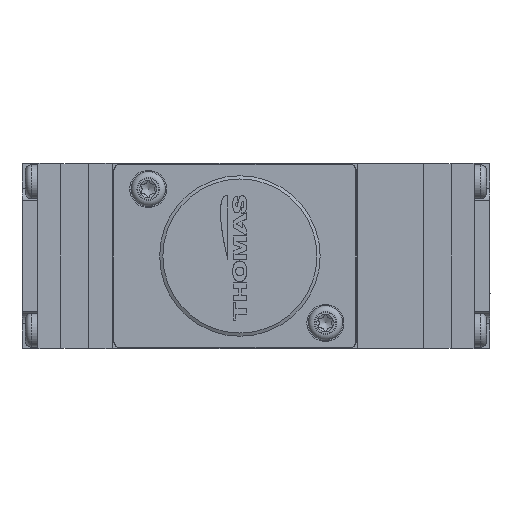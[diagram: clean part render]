
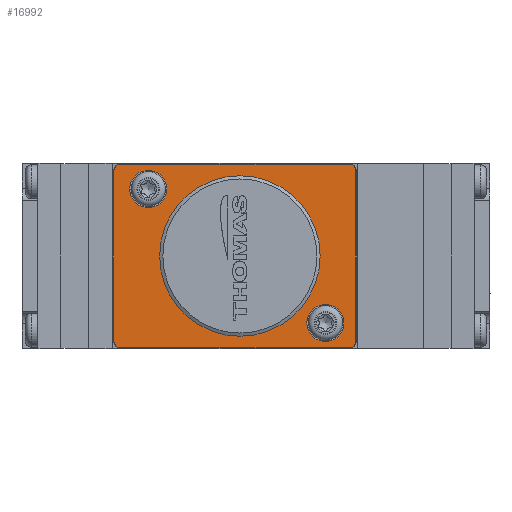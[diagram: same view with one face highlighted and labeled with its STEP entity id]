
A CAD part, left-side view. The second image highlights one B-rep face of the part: STEP entity #16992.
In plain terms, the highlighted planar face has unit normal (-1, 0, 0).
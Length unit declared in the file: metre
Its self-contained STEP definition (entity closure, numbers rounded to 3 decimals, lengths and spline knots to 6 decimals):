
#99 = EDGE_CURVE ( 'NONE', #601, #35715, #4696, .T. ) ;
#349 = DIRECTION ( 'NONE',  ( 0., 0., -1. ) ) ;
#601 = VERTEX_POINT ( 'NONE', #18446 ) ;
#1012 = CARTESIAN_POINT ( 'NONE',  ( -0.0301, -0.01525, -0.01385 ) ) ;
#1351 = EDGE_CURVE ( 'NONE', #10047, #22670, #16678, .T. ) ;
#2067 = DIRECTION ( 'NONE',  ( 0., 0., -1. ) ) ;
#2504 = DIRECTION ( 'NONE',  ( -1., 0., 0. ) ) ;
#2826 = EDGE_CURVE ( 'NONE', #32027, #32027, #13781, .T. ) ;
#3265 = CIRCLE ( 'NONE', #11943, 0.013 ) ;
#3659 = CARTESIAN_POINT ( 'NONE',  ( -0.0301, 0.01745, 0.01085 ) ) ;
#4004 = DIRECTION ( 'NONE',  ( 0., 0., -1. ) ) ;
#4154 = DIRECTION ( 'NONE',  ( -1., 0., 0. ) ) ;
#4454 = LINE ( 'NONE', #5794, #27164 ) ;
#4696 = CIRCLE ( 'NONE', #26306, 0.000953 ) ;
#5522 = EDGE_LOOP ( 'NONE', ( #18158 ) ) ;
#5552 = VERTEX_POINT ( 'NONE', #7711 ) ;
#5794 = CARTESIAN_POINT ( 'NONE',  ( -0.0301, 0.02305, -0.014803 ) ) ;
#5823 = ORIENTED_EDGE ( 'NONE', *, *, #26749, .T. ) ;
#6649 = DIRECTION ( 'NONE',  ( 0., 0., -1. ) ) ;
#6839 = CARTESIAN_POINT ( 'NONE',  ( -0.0301, -0.016203, -0.01385 ) ) ;
#7407 = DIRECTION ( 'NONE',  ( 0., 0., 1. ) ) ;
#7603 = DIRECTION ( 'NONE',  ( -1., 0., 0. ) ) ;
#7711 = CARTESIAN_POINT ( 'NONE',  ( -0.0301, 0.0026, -0.013 ) ) ;
#9274 = CARTESIAN_POINT ( 'NONE',  ( -0.0301, 0.02305, 0.014803 ) ) ;
#9396 = EDGE_CURVE ( 'NONE', #5552, #5552, #3265, .T. ) ;
#9734 = CARTESIAN_POINT ( 'NONE',  ( -0.0301, 0.02205, -0.014803 ) ) ;
#10047 = VERTEX_POINT ( 'NONE', #6839 ) ;
#10262 = CARTESIAN_POINT ( 'NONE',  ( -0.0301, -0.016203, 0.01385 ) ) ;
#10394 = ORIENTED_EDGE ( 'NONE', *, *, #36836, .T. ) ;
#11380 = VERTEX_POINT ( 'NONE', #26055 ) ;
#11692 = DIRECTION ( 'NONE',  ( 0., 0., -1. ) ) ;
#11934 = DIRECTION ( 'NONE',  ( -1., 0., 0. ) ) ;
#11943 = AXIS2_PLACEMENT_3D ( 'NONE', #29693, #11934, #32710 ) ;
#12233 = DIRECTION ( 'NONE',  ( 0., 1., 0. ) ) ;
#12323 = EDGE_CURVE ( 'NONE', #22670, #28420, #23766, .T. ) ;
#12655 = EDGE_CURVE ( 'NONE', #14340, #601, #19011, .T. ) ;
#12747 = DIRECTION ( 'NONE',  ( -1., 0., 0. ) ) ;
#13781 = CIRCLE ( 'NONE', #36841, 0.003 ) ;
#14288 = PLANE ( 'NONE',  #30278 ) ;
#14340 = VERTEX_POINT ( 'NONE', #28869 ) ;
#14639 = ORIENTED_EDGE ( 'NONE', *, *, #9396, .F. ) ;
#14940 = FACE_BOUND ( 'NONE', #5522, .T. ) ;
#15050 = CIRCLE ( 'NONE', #17475, 0.003 ) ;
#15380 = EDGE_LOOP ( 'NONE', ( #24345, #27228, #21763, #16568, #10394, #5823, #22677, #25146 ) ) ;
#16568 = ORIENTED_EDGE ( 'NONE', *, *, #12323, .T. ) ;
#16678 = LINE ( 'NONE', #28133, #32485 ) ;
#16992 = ADVANCED_FACE ( 'NONE', ( #30743, #29792, #14940, #21911 ), #14288, .T. ) ;
#17475 = AXIS2_PLACEMENT_3D ( 'NONE', #25335, #7603, #28322 ) ;
#18089 = DIRECTION ( 'NONE',  ( -1., 0., 0. ) ) ;
#18158 = ORIENTED_EDGE ( 'NONE', *, *, #2826, .F. ) ;
#18446 = CARTESIAN_POINT ( 'NONE',  ( -0.0301, 0.023003, -0.01385 ) ) ;
#18474 = CARTESIAN_POINT ( 'NONE',  ( -0.0301, -0.01525, 0.014803 ) ) ;
#19011 = LINE ( 'NONE', #38278, #32028 ) ;
#19373 = CARTESIAN_POINT ( 'NONE',  ( -0.0301, 0.01745, 0.00785 ) ) ;
#19830 = CARTESIAN_POINT ( 'NONE',  ( -0.0301, 0.02205, -0.01385 ) ) ;
#20357 = CARTESIAN_POINT ( 'NONE',  ( -0.0301, 0.02205, 0.014803 ) ) ;
#21745 = DIRECTION ( 'NONE',  ( -1., 0., 0. ) ) ;
#21763 = ORIENTED_EDGE ( 'NONE', *, *, #1351, .T. ) ;
#21911 = FACE_BOUND ( 'NONE', #24070, .T. ) ;
#22670 = VERTEX_POINT ( 'NONE', #10262 ) ;
#22677 = ORIENTED_EDGE ( 'NONE', *, *, #12655, .T. ) ;
#23244 = DIRECTION ( 'NONE',  ( 0., 0., -1. ) ) ;
#23532 = DIRECTION ( 'NONE',  ( 0., -1., 0. ) ) ;
#23766 = CIRCLE ( 'NONE', #25692, 0.000953 ) ;
#24070 = EDGE_LOOP ( 'NONE', ( #14639 ) ) ;
#24345 = ORIENTED_EDGE ( 'NONE', *, *, #24586, .T. ) ;
#24388 = DIRECTION ( 'NONE',  ( -1., 0., 0. ) ) ;
#24586 = EDGE_CURVE ( 'NONE', #35715, #11380, #4454, .T. ) ;
#25146 = ORIENTED_EDGE ( 'NONE', *, *, #99, .T. ) ;
#25335 = CARTESIAN_POINT ( 'NONE',  ( -0.0301, -0.01125, -0.01085 ) ) ;
#25692 = AXIS2_PLACEMENT_3D ( 'NONE', #30523, #12747, #33546 ) ;
#25894 = EDGE_CURVE ( 'NONE', #11380, #10047, #26230, .T. ) ;
#26055 = CARTESIAN_POINT ( 'NONE',  ( -0.0301, -0.01525, -0.014803 ) ) ;
#26230 = CIRCLE ( 'NONE', #29104, 0.000953 ) ;
#26306 = AXIS2_PLACEMENT_3D ( 'NONE', #19830, #4154, #2067 ) ;
#26335 = CARTESIAN_POINT ( 'NONE',  ( -0.0301, -0.01125, -0.01385 ) ) ;
#26749 = EDGE_CURVE ( 'NONE', #33892, #14340, #36868, .T. ) ;
#26892 = AXIS2_PLACEMENT_3D ( 'NONE', #35891, #18089, #349 ) ;
#27164 = VECTOR ( 'NONE', #23532, 1. ) ;
#27228 = ORIENTED_EDGE ( 'NONE', *, *, #25894, .T. ) ;
#27291 = VERTEX_POINT ( 'NONE', #26335 ) ;
#28133 = CARTESIAN_POINT ( 'NONE',  ( -0.0301, -0.016203, 0.01485 ) ) ;
#28322 = DIRECTION ( 'NONE',  ( 0., 0., -1. ) ) ;
#28420 = VERTEX_POINT ( 'NONE', #18474 ) ;
#28767 = VECTOR ( 'NONE', #12233, 1. ) ;
#28869 = CARTESIAN_POINT ( 'NONE',  ( -0.0301, 0.023003, 0.01385 ) ) ;
#29104 = AXIS2_PLACEMENT_3D ( 'NONE', #1012, #21745, #4004 ) ;
#29693 = CARTESIAN_POINT ( 'NONE',  ( -0.0301, 0.0026, 0. ) ) ;
#29792 = FACE_BOUND ( 'NONE', #33762, .T. ) ;
#30278 = AXIS2_PLACEMENT_3D ( 'NONE', #35080, #2504, #23244 ) ;
#30523 = CARTESIAN_POINT ( 'NONE',  ( -0.0301, -0.01525, 0.01385 ) ) ;
#30743 = FACE_OUTER_BOUND ( 'NONE', #15380, .T. ) ;
#32027 = VERTEX_POINT ( 'NONE', #19373 ) ;
#32028 = VECTOR ( 'NONE', #11692, 1. ) ;
#32485 = VECTOR ( 'NONE', #7407, 1. ) ;
#32710 = DIRECTION ( 'NONE',  ( 0., 0., -1. ) ) ;
#33233 = ORIENTED_EDGE ( 'NONE', *, *, #33371, .F. ) ;
#33371 = EDGE_CURVE ( 'NONE', #27291, #27291, #15050, .T. ) ;
#33546 = DIRECTION ( 'NONE',  ( 0., 0., -1. ) ) ;
#33762 = EDGE_LOOP ( 'NONE', ( #33233 ) ) ;
#33892 = VERTEX_POINT ( 'NONE', #20357 ) ;
#35080 = CARTESIAN_POINT ( 'NONE',  ( -0.0301, 0.02305, 0.01485 ) ) ;
#35715 = VERTEX_POINT ( 'NONE', #9734 ) ;
#35891 = CARTESIAN_POINT ( 'NONE',  ( -0.0301, 0.02205, 0.01385 ) ) ;
#36674 = LINE ( 'NONE', #9274, #28767 ) ;
#36836 = EDGE_CURVE ( 'NONE', #28420, #33892, #36674, .T. ) ;
#36841 = AXIS2_PLACEMENT_3D ( 'NONE', #3659, #24388, #6649 ) ;
#36868 = CIRCLE ( 'NONE', #26892, 0.000953 ) ;
#38278 = CARTESIAN_POINT ( 'NONE',  ( -0.0301, 0.023003, 0.01485 ) ) ;
